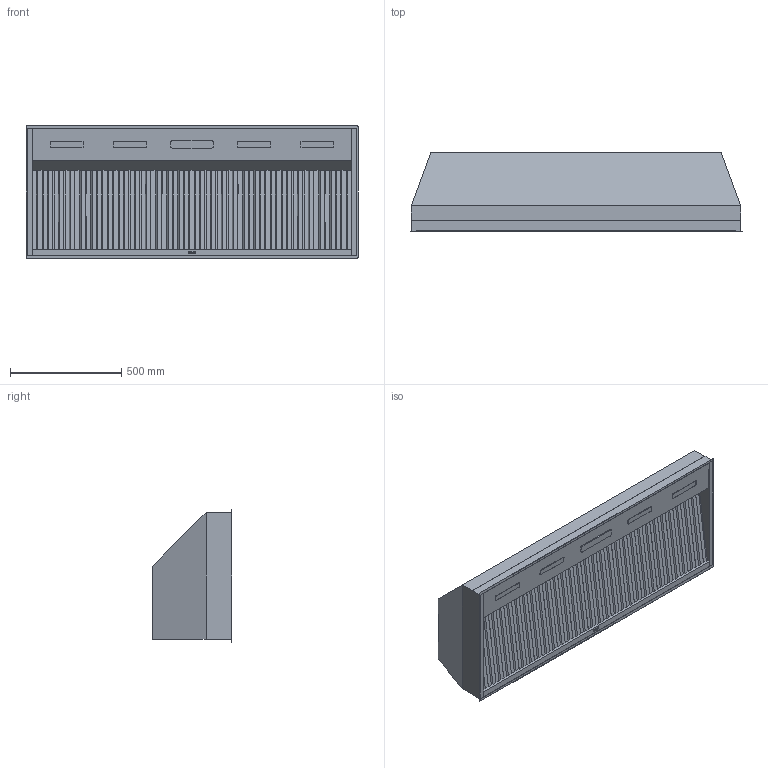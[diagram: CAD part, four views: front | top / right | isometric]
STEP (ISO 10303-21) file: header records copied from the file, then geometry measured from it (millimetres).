
FILE_DESCRIPTION((''),'2;1');
FILE_NAME('HBN560212SS_WEB_CAD_MODEL','2025-04-29T08:28:30',('BoutinM'),(''),'CREO PARAMETRIC BY PTC INC, 2023424','CREO PARAMETRIC BY PTC INC, 2023424','');
FILE_SCHEMA(('CONFIG_CONTROL_DESIGN','SHAPE_APPEARANCE_LAYERS_GROUPS'));
Length unit declared in the file: inch
Products named in the file (1): HBN560212SS_WEB_CAD_MODEL
Bounding box: 1494.21 x 356.36 x 596.9 mm (x, y, z)
Volume: 224651774.8 mm3; surface area: 3096079.7 mm2
Topology: 1 solids, 1 shells, 344 faces, 878 edges, 546 vertices
Faces by surface type: plane 307, cylinder 37
Entity records: 13785 total; most frequent: CARTESIAN_POINT 1768, ORIENTED_EDGE 1756, DIRECTION 1640, PRESENTATION_STYLE_ASSIGNMENT 938, STYLED_ITEM 879, CURVE_STYLE 878, EDGE_CURVE 878, VECTOR 804
